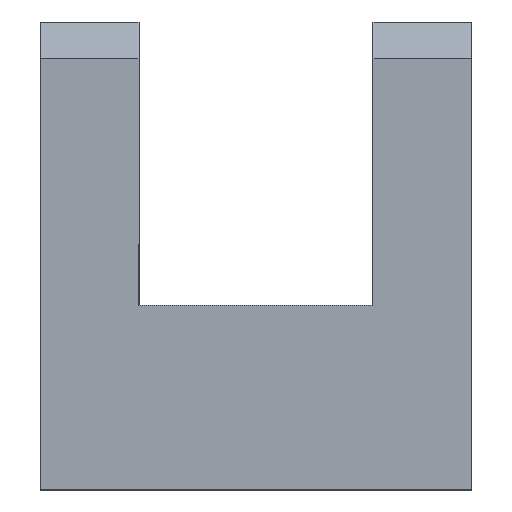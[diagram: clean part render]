
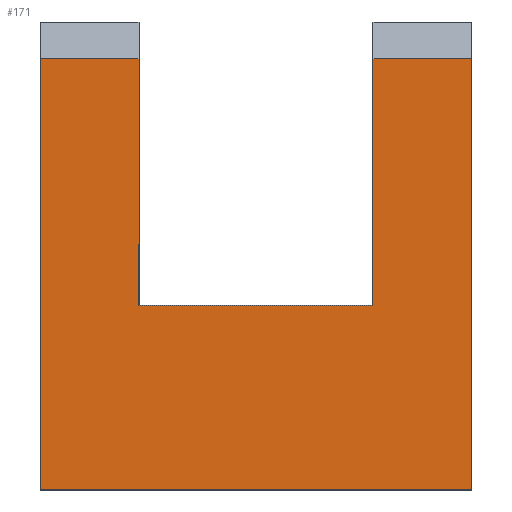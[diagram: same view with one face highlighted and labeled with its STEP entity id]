
A CAD part, left-side view. The second image highlights one B-rep face of the part: STEP entity #171.
In plain terms, the highlighted planar face has unit normal (-1, 0, 0).
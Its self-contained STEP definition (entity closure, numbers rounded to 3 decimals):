
#8 = CARTESIAN_POINT ( 'NONE',  ( -12., -17.5, 35. ) ) ;
#45 = DIRECTION ( 'NONE',  ( 0., 0., 1. ) ) ;
#67 = VERTEX_POINT ( 'NONE', #485 ) ;
#71 = LINE ( 'NONE', #564, #802 ) ;
#75 = VECTOR ( 'NONE', #719, 1000. ) ;
#115 = DIRECTION ( 'NONE',  ( 0., 1., 0. ) ) ;
#122 = VERTEX_POINT ( 'NONE', #170 ) ;
#124 = CARTESIAN_POINT ( 'NONE',  ( -12., -17.5, 0. ) ) ;
#143 = DIRECTION ( 'NONE',  ( 0., 0., 1. ) ) ;
#148 = LINE ( 'NONE', #285, #75 ) ;
#149 = DIRECTION ( 'NONE',  ( 0., 0., 1. ) ) ;
#170 = CARTESIAN_POINT ( 'NONE',  ( -12., 9.5, 15. ) ) ;
#171 = ADVANCED_FACE ( 'NONE', ( #179 ), #343, .F. ) ;
#179 = FACE_OUTER_BOUND ( 'NONE', #904, .T. ) ;
#191 = ORIENTED_EDGE ( 'NONE', *, *, #353, .F. ) ;
#204 = CARTESIAN_POINT ( 'NONE',  ( -12., 17.5, 35. ) ) ;
#238 = VECTOR ( 'NONE', #149, 1000. ) ;
#285 = CARTESIAN_POINT ( 'NONE',  ( -12., 17.5, 35. ) ) ;
#303 = EDGE_CURVE ( 'NONE', #357, #67, #472, .T. ) ;
#343 = PLANE ( 'NONE',  #782 ) ;
#349 = ORIENTED_EDGE ( 'NONE', *, *, #681, .T. ) ;
#353 = EDGE_CURVE ( 'NONE', #357, #973, #71, .T. ) ;
#357 = VERTEX_POINT ( 'NONE', #659 ) ;
#389 = LINE ( 'NONE', #204, #750 ) ;
#433 = CARTESIAN_POINT ( 'NONE',  ( -12., 17.5, 35. ) ) ;
#435 = VECTOR ( 'NONE', #795, 1000. ) ;
#450 = EDGE_CURVE ( 'NONE', #937, #973, #389, .T. ) ;
#470 = VECTOR ( 'NONE', #601, 1000. ) ;
#472 = LINE ( 'NONE', #615, #627 ) ;
#485 = CARTESIAN_POINT ( 'NONE',  ( -12., -17.5, 0. ) ) ;
#488 = CARTESIAN_POINT ( 'NONE',  ( -12., 9.5, 38. ) ) ;
#495 = LINE ( 'NONE', #488, #238 ) ;
#509 = DIRECTION ( 'NONE',  ( 1., 0., 0. ) ) ;
#518 = ORIENTED_EDGE ( 'NONE', *, *, #450, .T. ) ;
#523 = CARTESIAN_POINT ( 'NONE',  ( -12., -9.5, 15. ) ) ;
#532 = VECTOR ( 'NONE', #45, 1000. ) ;
#564 = CARTESIAN_POINT ( 'NONE',  ( -12., 17.5, 0. ) ) ;
#572 = ORIENTED_EDGE ( 'NONE', *, *, #303, .T. ) ;
#601 = DIRECTION ( 'NONE',  ( 0., 1., 0. ) ) ;
#609 = DIRECTION ( 'NONE',  ( 0., 0., -1. ) ) ;
#612 = LINE ( 'NONE', #783, #435 ) ;
#613 = ORIENTED_EDGE ( 'NONE', *, *, #876, .T. ) ;
#615 = CARTESIAN_POINT ( 'NONE',  ( -12., 17.5, 0. ) ) ;
#627 = VECTOR ( 'NONE', #1056, 1000. ) ;
#649 = VERTEX_POINT ( 'NONE', #523 ) ;
#656 = VERTEX_POINT ( 'NONE', #8 ) ;
#659 = CARTESIAN_POINT ( 'NONE',  ( -12., 17.5, 0. ) ) ;
#681 = EDGE_CURVE ( 'NONE', #649, #122, #754, .T. ) ;
#719 = DIRECTION ( 'NONE',  ( 0., 1., 0. ) ) ;
#747 = ORIENTED_EDGE ( 'NONE', *, *, #841, .T. ) ;
#750 = VECTOR ( 'NONE', #115, 1000. ) ;
#754 = LINE ( 'NONE', #933, #470 ) ;
#782 = AXIS2_PLACEMENT_3D ( 'NONE', #1095, #509, #609 ) ;
#783 = CARTESIAN_POINT ( 'NONE',  ( -12., -9.5, 38. ) ) ;
#795 = DIRECTION ( 'NONE',  ( 0., 0., -1. ) ) ;
#802 = VECTOR ( 'NONE', #143, 1000. ) ;
#814 = ORIENTED_EDGE ( 'NONE', *, *, #961, .T. ) ;
#823 = CARTESIAN_POINT ( 'NONE',  ( -12., 9.5, 35. ) ) ;
#841 = EDGE_CURVE ( 'NONE', #916, #649, #612, .T. ) ;
#876 = EDGE_CURVE ( 'NONE', #67, #656, #963, .T. ) ;
#896 = ORIENTED_EDGE ( 'NONE', *, *, #1066, .T. ) ;
#904 = EDGE_LOOP ( 'NONE', ( #613, #896, #747, #349, #814, #518, #191, #572 ) ) ;
#916 = VERTEX_POINT ( 'NONE', #996 ) ;
#933 = CARTESIAN_POINT ( 'NONE',  ( -12., 9.5, 15. ) ) ;
#937 = VERTEX_POINT ( 'NONE', #823 ) ;
#961 = EDGE_CURVE ( 'NONE', #122, #937, #495, .T. ) ;
#963 = LINE ( 'NONE', #124, #532 ) ;
#973 = VERTEX_POINT ( 'NONE', #433 ) ;
#996 = CARTESIAN_POINT ( 'NONE',  ( -12., -9.5, 35. ) ) ;
#1056 = DIRECTION ( 'NONE',  ( 0., -1., 0. ) ) ;
#1066 = EDGE_CURVE ( 'NONE', #656, #916, #148, .T. ) ;
#1095 = CARTESIAN_POINT ( 'NONE',  ( -12., 17.5, 0. ) ) ;
